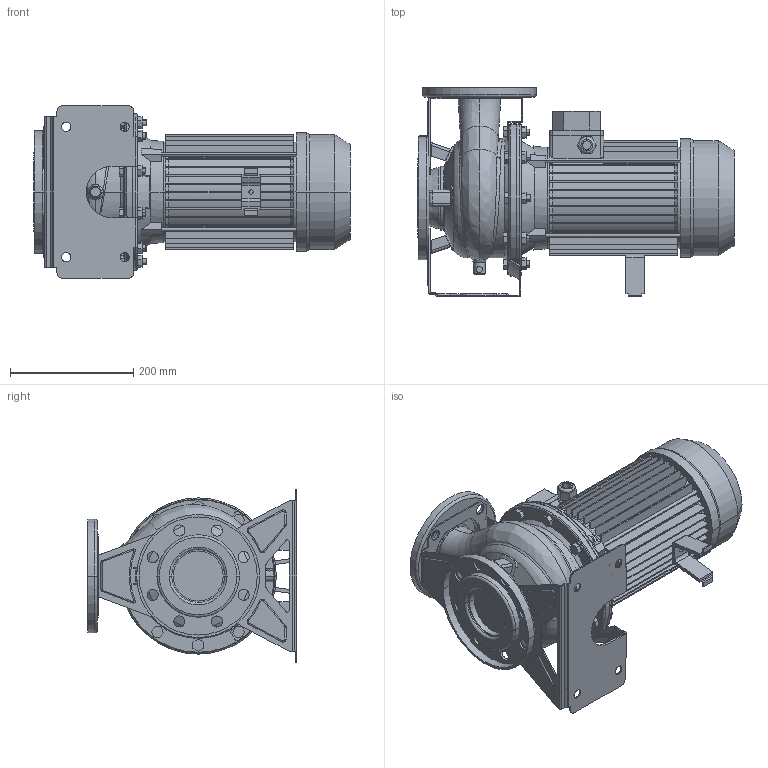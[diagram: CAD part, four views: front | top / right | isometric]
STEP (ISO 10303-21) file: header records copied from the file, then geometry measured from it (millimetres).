
FILE_DESCRIPTION((''),'2;1');
FILE_NAME('3M_65-125_4_IE2_ASM','2011-04-22T',('Utente'),('"Ebara Pumps Europe +39.444.706811"'),'PRO/ENGINEER BY PARAMETRIC TECHNOLOGY CORPORATION, 2009360','PRO/ENGINEER BY PARAMETRIC TECHNOLOGY CORPORATION, 2009360','');
FILE_SCHEMA(('AUTOMOTIVE_DESIGN { 1 0 10303 214 1 1 1 1 }'));
Length unit declared in the file: millimetre
Products named in the file (11): CORPO_65-125; ASP_65-125; FLANGIA_DIN_80_8_FORI; MAND_65-125; FLANGIA_DIN_65; BASE_3M_65-125; CORPO_SALDATO_65-125_ASM; SUPPORTO_3M_190_100; MEC_100X170_IE2; SOSTEGNO_72007; 3M_65-125_4_IE2_ASM
Assembly tree (10 placements, depth 3):
  3M_65-125_4_IE2_ASM
    CORPO_SALDATO_65-125_ASM
      CORPO_65-125
      ASP_65-125
      FLANGIA_DIN_80_8_FORI
      MAND_65-125
      FLANGIA_DIN_65
      BASE_3M_65-125
    SUPPORTO_3M_190_100
    MEC_100X170_IE2
    SOSTEGNO_72007
Bounding box: 514 x 340 x 280 mm (x, y, z)
Volume: 9548094.9 mm3; surface area: 1343797.9 mm2
Topology: 12 solids, 12 shells, 1082 faces, 2759 edges, 1758 vertices
Faces by surface type: plane 573, cylinder 304, cone 98, torus 60, bspline 33, sphere 14
Entity records: 44044 total; most frequent: CARTESIAN_POINT 11379, DIRECTION 5608, ORIENTED_EDGE 5518, EDGE_CURVE 2759, AXIS2_PLACEMENT_3D 2044, VERTEX_POINT 1758, VECTOR 1520, LINE 1520
